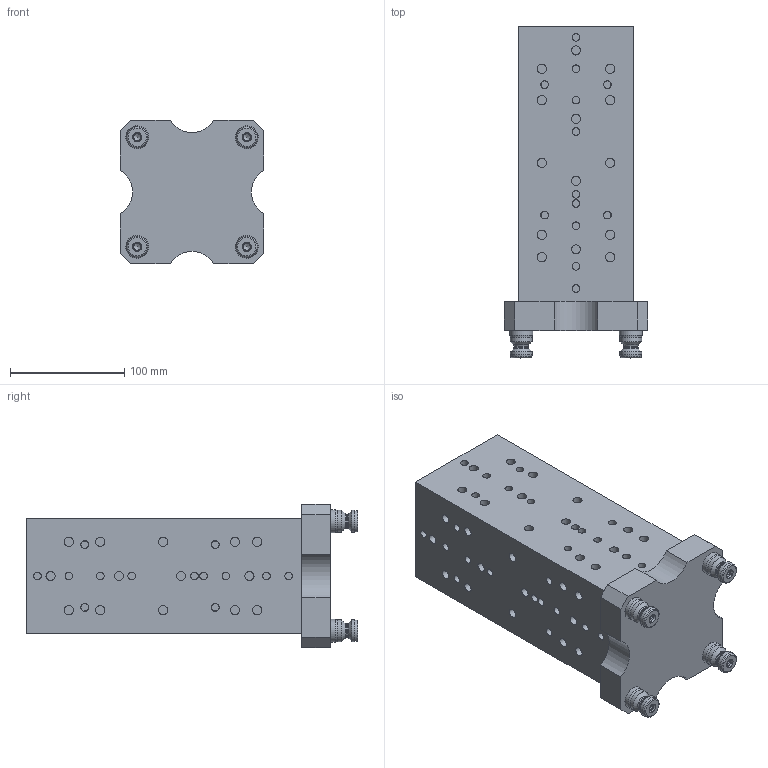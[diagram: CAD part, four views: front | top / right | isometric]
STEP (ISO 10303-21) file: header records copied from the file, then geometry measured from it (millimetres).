
FILE_DESCRIPTION (( 'STEP AP214' ), '1' );
FILE_NAME ('R96-V75100T4_WEBSITE.STEP', '2025-08-12T16:50:36', ( '' ), ( '' ), 'SwSTEP 2.0', 'SolidWorks 2024', '' );
FILE_SCHEMA (( 'AUTOMOTIVE_DESIGN' ));
Length unit declared in the file: millimetre
Products named in the file (5): R96-V75100T4-1_WEBSITE; PS20F-1_WEBSITE_HARD TURN; PS20F_WEBSITE; R96-V75100T4_WEBSITE; M10X25.FPSS_WEBSITE_NO HEX
Assembly tree (7 placements, depth 3):
  R96-V75100T4_WEBSITE
    R96-V75100T4-1_WEBSITE
    PS20F_WEBSITE  x4
      PS20F-1_WEBSITE_HARD TURN
      M10X25.FPSS_WEBSITE_NO HEX
Bounding box: 125.73 x 290.7 x 125.73 mm (x, y, z)
Volume: 2814627.3 mm3; surface area: 193809 mm2
Topology: 9 solids, 9 shells, 466 faces, 939 edges, 596 vertices
Faces by surface type: plane 227, cylinder 157, cone 50, torus 32
Full cylindrical faces by diameter (mm): 6.147 x4, 6.35 x1, 6.75 x52, 8 x56, 8.5 x8, 10 x8, 12.497 x4, 15.992 x4, 16.02 x4, 19.012 x8, 19.972 x4
Entity records: 7051 total; most frequent: DIRECTION 1304, CARTESIAN_POINT 1151, ORIENTED_EDGE 792, AXIS2_PLACEMENT_3D 607, EDGE_LOOP 576, FACE_OUTER_BOUND 444, EDGE_CURVE 396, VERTEX_POINT 342
